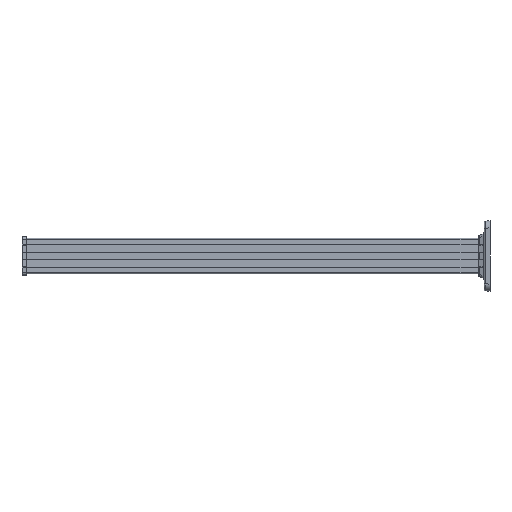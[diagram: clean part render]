
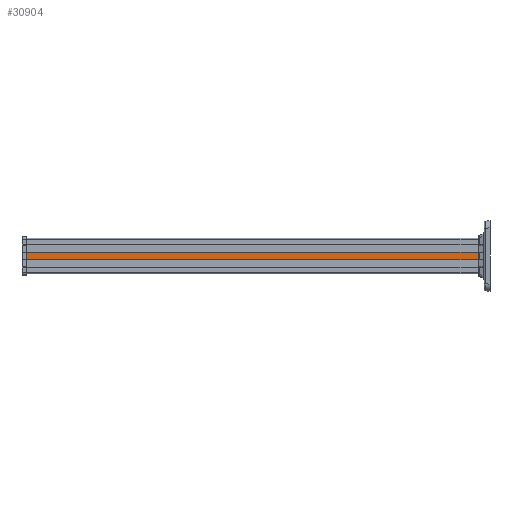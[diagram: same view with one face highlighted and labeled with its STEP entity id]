
A CAD part, left-side view. The second image highlights one B-rep face of the part: STEP entity #30904.
In plain terms, the highlighted planar face has unit normal (-1, 0, 0).
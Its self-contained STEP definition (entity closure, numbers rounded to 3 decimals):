
#1094 = DIRECTION ( 'NONE',  ( -1., 0., 0. ) ) ;
#1212 = CARTESIAN_POINT ( 'NONE',  ( -92.447, 1902.892, 284.75 ) ) ;
#2078 = EDGE_CURVE ( 'NONE', #54095, #36359, #77289, .T. ) ;
#3512 = CARTESIAN_POINT ( 'NONE',  ( -92.447, -52.858, 315.25 ) ) ;
#5983 = CARTESIAN_POINT ( 'NONE',  ( -92.447, -97.108, 284.75 ) ) ;
#8547 = DIRECTION ( 'NONE',  ( 0., 0., 1. ) ) ;
#9054 = CARTESIAN_POINT ( 'NONE',  ( -92.447, -52.858, 284.75 ) ) ;
#12129 = CARTESIAN_POINT ( 'NONE',  ( -92.447, 1902.892, 315.25 ) ) ;
#16289 = VERTEX_POINT ( 'NONE', #12129 ) ;
#19929 = EDGE_CURVE ( 'NONE', #48554, #16289, #62625, .T. ) ;
#22893 = CARTESIAN_POINT ( 'NONE',  ( -92.447, -52.858, 225. ) ) ;
#23285 = DIRECTION ( 'NONE',  ( 0., 0., 1. ) ) ;
#24012 = EDGE_CURVE ( 'NONE', #48554, #54095, #29307, .T. ) ;
#25151 = LINE ( 'NONE', #30705, #40473 ) ;
#29307 = LINE ( 'NONE', #5983, #36757 ) ;
#30705 = CARTESIAN_POINT ( 'NONE',  ( -92.447, 1902.892, 315.25 ) ) ;
#30904 = ADVANCED_FACE ( 'NONE', ( #61103 ), #55211, .T. ) ;
#33428 = CARTESIAN_POINT ( 'NONE',  ( -92.447, 1902.892, 225. ) ) ;
#36359 = VERTEX_POINT ( 'NONE', #3512 ) ;
#36757 = VECTOR ( 'NONE', #77371, 1000. ) ;
#40473 = VECTOR ( 'NONE', #49621, 1000. ) ;
#41595 = ORIENTED_EDGE ( 'NONE', *, *, #2078, .T. ) ;
#42448 = VECTOR ( 'NONE', #23285, 1000. ) ;
#42834 = EDGE_LOOP ( 'NONE', ( #65380, #41595, #58747, #61777 ) ) ;
#48554 = VERTEX_POINT ( 'NONE', #1212 ) ;
#49621 = DIRECTION ( 'NONE',  ( 0., 1., 0. ) ) ;
#49958 = EDGE_CURVE ( 'NONE', #36359, #16289, #25151, .T. ) ;
#54095 = VERTEX_POINT ( 'NONE', #9054 ) ;
#55211 = PLANE ( 'NONE',  #60071 ) ;
#56293 = VECTOR ( 'NONE', #8547, 1000. ) ;
#58747 = ORIENTED_EDGE ( 'NONE', *, *, #49958, .T. ) ;
#60071 = AXIS2_PLACEMENT_3D ( 'NONE', #61489, #1094, #67403 ) ;
#61103 = FACE_OUTER_BOUND ( 'NONE', #42834, .T. ) ;
#61489 = CARTESIAN_POINT ( 'NONE',  ( -92.447, -97.108, 225. ) ) ;
#61777 = ORIENTED_EDGE ( 'NONE', *, *, #19929, .F. ) ;
#62625 = LINE ( 'NONE', #33428, #56293 ) ;
#65380 = ORIENTED_EDGE ( 'NONE', *, *, #24012, .T. ) ;
#67403 = DIRECTION ( 'NONE',  ( 0., 0., 1. ) ) ;
#77289 = LINE ( 'NONE', #22893, #42448 ) ;
#77371 = DIRECTION ( 'NONE',  ( 0., -1., 0. ) ) ;
